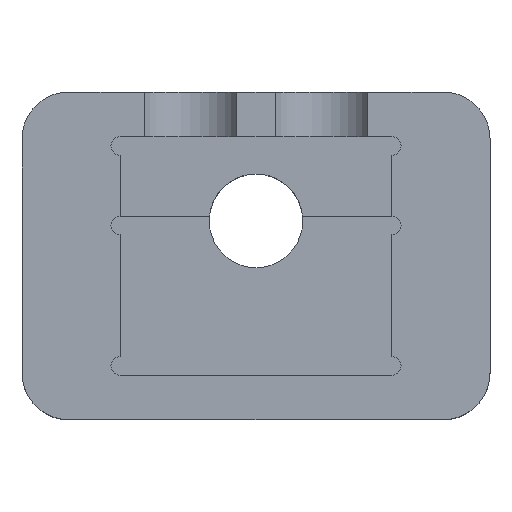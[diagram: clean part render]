
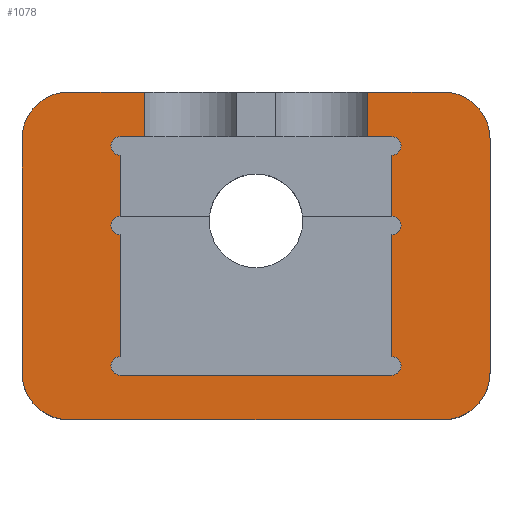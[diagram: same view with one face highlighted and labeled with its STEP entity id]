
A CAD part, top view. The second image highlights one B-rep face of the part: STEP entity #1078.
In plain terms, the highlighted planar face has unit normal (0, 0, 1).
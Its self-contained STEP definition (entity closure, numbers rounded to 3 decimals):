
#565=AXIS2_PLACEMENT_3D('Circle Axis2P3D',#563,#564,$) ;
#613=AXIS2_PLACEMENT_3D('Circle Axis2P3D',#611,#612,$) ;
#693=AXIS2_PLACEMENT_3D('Circle Axis2P3D',#691,#692,$) ;
#741=AXIS2_PLACEMENT_3D('Circle Axis2P3D',#739,#740,$) ;
#926=AXIS2_PLACEMENT_3D('Plane Axis2P3D',#923,#924,#925) ;
#930=AXIS2_PLACEMENT_3D('Circle Axis2P3D',#928,#929,$) ;
#937=AXIS2_PLACEMENT_3D('Circle Axis2P3D',#935,#936,$) ;
#942=AXIS2_PLACEMENT_3D('Circle Axis2P3D',#940,#941,$) ;
#949=AXIS2_PLACEMENT_3D('Circle Axis2P3D',#947,#948,$) ;
#954=AXIS2_PLACEMENT_3D('Circle Axis2P3D',#952,#953,$) ;
#961=AXIS2_PLACEMENT_3D('Circle Axis2P3D',#959,#960,$) ;
#975=AXIS2_PLACEMENT_3D('Circle Axis2P3D',#973,#974,$) ;
#982=AXIS2_PLACEMENT_3D('Circle Axis2P3D',#980,#981,$) ;
#1015=AXIS2_PLACEMENT_3D('Circle Axis2P3D',#1013,#1014,$) ;
#1022=AXIS2_PLACEMENT_3D('Circle Axis2P3D',#1020,#1021,$) ;
#1036=AXIS2_PLACEMENT_3D('Circle Axis2P3D',#1034,#1035,$) ;
#1043=AXIS2_PLACEMENT_3D('Circle Axis2P3D',#1041,#1042,$) ;
#274=CARTESIAN_POINT('Line Origine',(10.5,-21.75,15.)) ;
#278=CARTESIAN_POINT('Vertex',(10.5,-15.25,15.)) ;
#280=CARTESIAN_POINT('Vertex',(10.5,-28.25,15.)) ;
#318=CARTESIAN_POINT('Vertex',(39.5,-30.25,15.)) ;
#334=CARTESIAN_POINT('Vertex',(10.5,-30.25,15.)) ;
#337=CARTESIAN_POINT('Line Origine',(25.,-30.25,15.)) ;
#367=CARTESIAN_POINT('Vertex',(39.5,-28.25,15.)) ;
#370=CARTESIAN_POINT('Line Origine',(39.5,-21.75,15.)) ;
#374=CARTESIAN_POINT('Vertex',(39.5,-15.25,15.)) ;
#536=CARTESIAN_POINT('Vertex',(5.,-35.,15.)) ;
#543=CARTESIAN_POINT('Vertex',(45.,-35.,15.)) ;
#546=CARTESIAN_POINT('Line Origine',(25.,-35.,15.)) ;
#563=CARTESIAN_POINT('Axis2P3D Location',(45.,-30.,15.)) ;
#567=CARTESIAN_POINT('Vertex',(50.,-30.,15.)) ;
#591=CARTESIAN_POINT('Vertex',(50.,-5.,15.)) ;
#594=CARTESIAN_POINT('Line Origine',(50.,-17.5,15.)) ;
#611=CARTESIAN_POINT('Axis2P3D Location',(45.,-5.,15.)) ;
#615=CARTESIAN_POINT('Vertex',(45.,0.,15.)) ;
#639=CARTESIAN_POINT('Vertex',(5.,0.,15.)) ;
#642=CARTESIAN_POINT('Line Origine',(9.032,0.,15.)) ;
#646=CARTESIAN_POINT('Vertex',(13.064,0.,15.)) ;
#667=CARTESIAN_POINT('Vertex',(36.936,0.,15.)) ;
#670=CARTESIAN_POINT('Line Origine',(40.968,0.,15.)) ;
#691=CARTESIAN_POINT('Axis2P3D Location',(5.,-5.,15.)) ;
#695=CARTESIAN_POINT('Vertex',(0.,-5.,15.)) ;
#715=CARTESIAN_POINT('Line Origine',(0.,-17.5,15.)) ;
#719=CARTESIAN_POINT('Vertex',(0.,-30.,15.)) ;
#739=CARTESIAN_POINT('Axis2P3D Location',(5.,-30.,15.)) ;
#923=CARTESIAN_POINT('Axis2P3D Location',(0.,0.,15.)) ;
#928=CARTESIAN_POINT('Axis2P3D Location',(39.5,-29.25,15.)) ;
#932=CARTESIAN_POINT('Vertex',(40.5,-29.25,15.)) ;
#935=CARTESIAN_POINT('Axis2P3D Location',(39.5,-29.25,15.)) ;
#940=CARTESIAN_POINT('Axis2P3D Location',(10.5,-29.25,15.)) ;
#944=CARTESIAN_POINT('Vertex',(9.5,-29.25,15.)) ;
#947=CARTESIAN_POINT('Axis2P3D Location',(10.5,-29.25,15.)) ;
#952=CARTESIAN_POINT('Axis2P3D Location',(10.5,-14.25,15.)) ;
#956=CARTESIAN_POINT('Vertex',(9.5,-14.25,15.)) ;
#959=CARTESIAN_POINT('Axis2P3D Location',(10.5,-14.25,15.)) ;
#963=CARTESIAN_POINT('Vertex',(10.5,-13.25,15.)) ;
#966=CARTESIAN_POINT('Line Origine',(10.5,-10.,15.)) ;
#970=CARTESIAN_POINT('Vertex',(10.5,-6.75,15.)) ;
#973=CARTESIAN_POINT('Axis2P3D Location',(10.5,-5.75,15.)) ;
#977=CARTESIAN_POINT('Vertex',(9.5,-5.75,15.)) ;
#980=CARTESIAN_POINT('Axis2P3D Location',(10.5,-5.75,15.)) ;
#984=CARTESIAN_POINT('Vertex',(10.5,-4.75,15.)) ;
#987=CARTESIAN_POINT('Line Origine',(11.782,-4.75,15.)) ;
#991=CARTESIAN_POINT('Vertex',(13.064,-4.75,15.)) ;
#994=CARTESIAN_POINT('Line Origine',(13.064,-2.375,15.)) ;
#999=CARTESIAN_POINT('Line Origine',(36.936,-2.375,15.)) ;
#1003=CARTESIAN_POINT('Vertex',(36.936,-4.75,15.)) ;
#1006=CARTESIAN_POINT('Line Origine',(38.218,-4.75,15.)) ;
#1010=CARTESIAN_POINT('Vertex',(39.5,-4.75,15.)) ;
#1013=CARTESIAN_POINT('Axis2P3D Location',(39.5,-5.75,15.)) ;
#1017=CARTESIAN_POINT('Vertex',(40.5,-5.75,15.)) ;
#1020=CARTESIAN_POINT('Axis2P3D Location',(39.5,-5.75,15.)) ;
#1024=CARTESIAN_POINT('Vertex',(39.5,-6.75,15.)) ;
#1027=CARTESIAN_POINT('Line Origine',(39.5,-10.,15.)) ;
#1031=CARTESIAN_POINT('Vertex',(39.5,-13.25,15.)) ;
#1034=CARTESIAN_POINT('Axis2P3D Location',(39.5,-14.25,15.)) ;
#1038=CARTESIAN_POINT('Vertex',(40.5,-14.25,15.)) ;
#1041=CARTESIAN_POINT('Axis2P3D Location',(39.5,-14.25,15.)) ;
#275=DIRECTION('Vector Direction',(0.,-1.,0.)) ;
#338=DIRECTION('Vector Direction',(1.,0.,0.)) ;
#371=DIRECTION('Vector Direction',(0.,1.,0.)) ;
#547=DIRECTION('Vector Direction',(-1.,0.,0.)) ;
#564=DIRECTION('Axis2P3D Direction',(0.,0.,1.)) ;
#595=DIRECTION('Vector Direction',(0.,1.,0.)) ;
#612=DIRECTION('Axis2P3D Direction',(0.,-0.,1.)) ;
#643=DIRECTION('Vector Direction',(1.,0.,0.)) ;
#671=DIRECTION('Vector Direction',(1.,0.,0.)) ;
#692=DIRECTION('Axis2P3D Direction',(0.,0.,1.)) ;
#716=DIRECTION('Vector Direction',(0.,-1.,0.)) ;
#740=DIRECTION('Axis2P3D Direction',(0.,0.,1.)) ;
#924=DIRECTION('Axis2P3D Direction',(0.,0.,1.)) ;
#925=DIRECTION('Axis2P3D XDirection',(1.,0.,0.)) ;
#929=DIRECTION('Axis2P3D Direction',(0.,0.,1.)) ;
#936=DIRECTION('Axis2P3D Direction',(0.,0.,1.)) ;
#941=DIRECTION('Axis2P3D Direction',(0.,0.,1.)) ;
#948=DIRECTION('Axis2P3D Direction',(0.,0.,1.)) ;
#953=DIRECTION('Axis2P3D Direction',(0.,0.,1.)) ;
#960=DIRECTION('Axis2P3D Direction',(0.,0.,1.)) ;
#967=DIRECTION('Vector Direction',(0.,-1.,0.)) ;
#974=DIRECTION('Axis2P3D Direction',(0.,0.,1.)) ;
#981=DIRECTION('Axis2P3D Direction',(0.,0.,1.)) ;
#988=DIRECTION('Vector Direction',(1.,0.,0.)) ;
#995=DIRECTION('Vector Direction',(0.,1.,0.)) ;
#1000=DIRECTION('Vector Direction',(0.,1.,0.)) ;
#1007=DIRECTION('Vector Direction',(1.,0.,0.)) ;
#1014=DIRECTION('Axis2P3D Direction',(0.,0.,1.)) ;
#1021=DIRECTION('Axis2P3D Direction',(0.,0.,1.)) ;
#1028=DIRECTION('Vector Direction',(0.,1.,0.)) ;
#1035=DIRECTION('Axis2P3D Direction',(0.,0.,1.)) ;
#1042=DIRECTION('Axis2P3D Direction',(0.,0.,1.)) ;
#276=VECTOR('Line Direction',#275,1.) ;
#339=VECTOR('Line Direction',#338,1.) ;
#372=VECTOR('Line Direction',#371,1.) ;
#548=VECTOR('Line Direction',#547,1.) ;
#596=VECTOR('Line Direction',#595,1.) ;
#644=VECTOR('Line Direction',#643,1.) ;
#672=VECTOR('Line Direction',#671,1.) ;
#717=VECTOR('Line Direction',#716,1.) ;
#968=VECTOR('Line Direction',#967,1.) ;
#989=VECTOR('Line Direction',#988,1.) ;
#996=VECTOR('Line Direction',#995,1.) ;
#1001=VECTOR('Line Direction',#1000,1.) ;
#1008=VECTOR('Line Direction',#1007,1.) ;
#1029=VECTOR('Line Direction',#1028,1.) ;
#1047=ORIENTED_EDGE('',*,*,#376,.F.) ;
#1048=ORIENTED_EDGE('',*,*,#934,.F.) ;
#1049=ORIENTED_EDGE('',*,*,#939,.F.) ;
#1050=ORIENTED_EDGE('',*,*,#341,.F.) ;
#1051=ORIENTED_EDGE('',*,*,#946,.F.) ;
#1052=ORIENTED_EDGE('',*,*,#951,.F.) ;
#1053=ORIENTED_EDGE('',*,*,#282,.F.) ;
#1054=ORIENTED_EDGE('',*,*,#958,.F.) ;
#1055=ORIENTED_EDGE('',*,*,#965,.F.) ;
#1056=ORIENTED_EDGE('',*,*,#972,.F.) ;
#1057=ORIENTED_EDGE('',*,*,#979,.F.) ;
#1058=ORIENTED_EDGE('',*,*,#986,.F.) ;
#1059=ORIENTED_EDGE('',*,*,#993,.F.) ;
#1060=ORIENTED_EDGE('',*,*,#998,.T.) ;
#1061=ORIENTED_EDGE('',*,*,#648,.T.) ;
#1062=ORIENTED_EDGE('',*,*,#697,.F.) ;
#1063=ORIENTED_EDGE('',*,*,#721,.T.) ;
#1064=ORIENTED_EDGE('',*,*,#743,.F.) ;
#1065=ORIENTED_EDGE('',*,*,#550,.T.) ;
#1066=ORIENTED_EDGE('',*,*,#569,.F.) ;
#1067=ORIENTED_EDGE('',*,*,#598,.T.) ;
#1068=ORIENTED_EDGE('',*,*,#617,.F.) ;
#1069=ORIENTED_EDGE('',*,*,#674,.T.) ;
#1070=ORIENTED_EDGE('',*,*,#1005,.F.) ;
#1071=ORIENTED_EDGE('',*,*,#1012,.F.) ;
#1072=ORIENTED_EDGE('',*,*,#1019,.F.) ;
#1073=ORIENTED_EDGE('',*,*,#1026,.F.) ;
#1074=ORIENTED_EDGE('',*,*,#1033,.F.) ;
#1075=ORIENTED_EDGE('',*,*,#1040,.F.) ;
#1076=ORIENTED_EDGE('',*,*,#1045,.F.) ;
#1078=ADVANCED_FACE('\X2\96F64EF651E04F554F53\X0\',(#1077),#927,.T.) ;
#566=CIRCLE('generated circle',#565,5.) ;
#614=CIRCLE('generated circle',#613,5.) ;
#694=CIRCLE('generated circle',#693,5.) ;
#742=CIRCLE('generated circle',#741,5.) ;
#931=CIRCLE('generated circle',#930,1.) ;
#938=CIRCLE('generated circle',#937,1.) ;
#943=CIRCLE('generated circle',#942,1.) ;
#950=CIRCLE('generated circle',#949,1.) ;
#955=CIRCLE('generated circle',#954,1.) ;
#962=CIRCLE('generated circle',#961,1.) ;
#976=CIRCLE('generated circle',#975,1.) ;
#983=CIRCLE('generated circle',#982,1.) ;
#1016=CIRCLE('generated circle',#1015,1.) ;
#1023=CIRCLE('generated circle',#1022,1.) ;
#1037=CIRCLE('generated circle',#1036,1.) ;
#1044=CIRCLE('generated circle',#1043,1.) ;
#282=EDGE_CURVE('',#279,#281,#277,.T.) ;
#341=EDGE_CURVE('',#335,#319,#340,.T.) ;
#376=EDGE_CURVE('',#368,#375,#373,.T.) ;
#550=EDGE_CURVE('',#537,#544,#549,.F.) ;
#569=EDGE_CURVE('',#568,#544,#566,.F.) ;
#598=EDGE_CURVE('',#568,#592,#597,.T.) ;
#617=EDGE_CURVE('',#616,#592,#614,.F.) ;
#648=EDGE_CURVE('',#647,#640,#645,.F.) ;
#674=EDGE_CURVE('',#616,#668,#673,.F.) ;
#697=EDGE_CURVE('',#696,#640,#694,.F.) ;
#721=EDGE_CURVE('',#696,#720,#718,.T.) ;
#743=EDGE_CURVE('',#537,#720,#742,.F.) ;
#934=EDGE_CURVE('',#933,#368,#931,.T.) ;
#939=EDGE_CURVE('',#319,#933,#938,.T.) ;
#946=EDGE_CURVE('',#945,#335,#943,.T.) ;
#951=EDGE_CURVE('',#281,#945,#950,.T.) ;
#958=EDGE_CURVE('',#957,#279,#955,.T.) ;
#965=EDGE_CURVE('',#964,#957,#962,.T.) ;
#972=EDGE_CURVE('',#971,#964,#969,.T.) ;
#979=EDGE_CURVE('',#978,#971,#976,.T.) ;
#986=EDGE_CURVE('',#985,#978,#983,.T.) ;
#993=EDGE_CURVE('',#992,#985,#990,.F.) ;
#998=EDGE_CURVE('',#992,#647,#997,.T.) ;
#1005=EDGE_CURVE('',#1004,#668,#1002,.T.) ;
#1012=EDGE_CURVE('',#1011,#1004,#1009,.F.) ;
#1019=EDGE_CURVE('',#1018,#1011,#1016,.T.) ;
#1026=EDGE_CURVE('',#1025,#1018,#1023,.T.) ;
#1033=EDGE_CURVE('',#1032,#1025,#1030,.T.) ;
#1040=EDGE_CURVE('',#1039,#1032,#1037,.T.) ;
#1045=EDGE_CURVE('',#375,#1039,#1044,.T.) ;
#1046=EDGE_LOOP('',(#1047,#1048,#1049,#1050,#1051,#1052,#1053,#1054,#1055,#1056,#1057,#1058,#1059,#1060,#1061,#1062,#1063,#1064,#1065,#1066,#1067,#1068,#1069,#1070,#1071,#1072,#1073,#1074,#1075,#1076)) ;
#1077=FACE_OUTER_BOUND('',#1046,.T.) ;
#277=LINE('Line',#274,#276) ;
#340=LINE('Line',#337,#339) ;
#373=LINE('Line',#370,#372) ;
#549=LINE('Line',#546,#548) ;
#597=LINE('Line',#594,#596) ;
#645=LINE('Line',#642,#644) ;
#673=LINE('Line',#670,#672) ;
#718=LINE('Line',#715,#717) ;
#969=LINE('Line',#966,#968) ;
#990=LINE('Line',#987,#989) ;
#997=LINE('Line',#994,#996) ;
#1002=LINE('Line',#999,#1001) ;
#1009=LINE('Line',#1006,#1008) ;
#1030=LINE('Line',#1027,#1029) ;
#927=PLANE('',#926) ;
#279=VERTEX_POINT('',#278) ;
#281=VERTEX_POINT('',#280) ;
#319=VERTEX_POINT('',#318) ;
#335=VERTEX_POINT('',#334) ;
#368=VERTEX_POINT('',#367) ;
#375=VERTEX_POINT('',#374) ;
#537=VERTEX_POINT('',#536) ;
#544=VERTEX_POINT('',#543) ;
#568=VERTEX_POINT('',#567) ;
#592=VERTEX_POINT('',#591) ;
#616=VERTEX_POINT('',#615) ;
#640=VERTEX_POINT('',#639) ;
#647=VERTEX_POINT('',#646) ;
#668=VERTEX_POINT('',#667) ;
#696=VERTEX_POINT('',#695) ;
#720=VERTEX_POINT('',#719) ;
#933=VERTEX_POINT('',#932) ;
#945=VERTEX_POINT('',#944) ;
#957=VERTEX_POINT('',#956) ;
#964=VERTEX_POINT('',#963) ;
#971=VERTEX_POINT('',#970) ;
#978=VERTEX_POINT('',#977) ;
#985=VERTEX_POINT('',#984) ;
#992=VERTEX_POINT('',#991) ;
#1004=VERTEX_POINT('',#1003) ;
#1011=VERTEX_POINT('',#1010) ;
#1018=VERTEX_POINT('',#1017) ;
#1025=VERTEX_POINT('',#1024) ;
#1032=VERTEX_POINT('',#1031) ;
#1039=VERTEX_POINT('',#1038) ;
